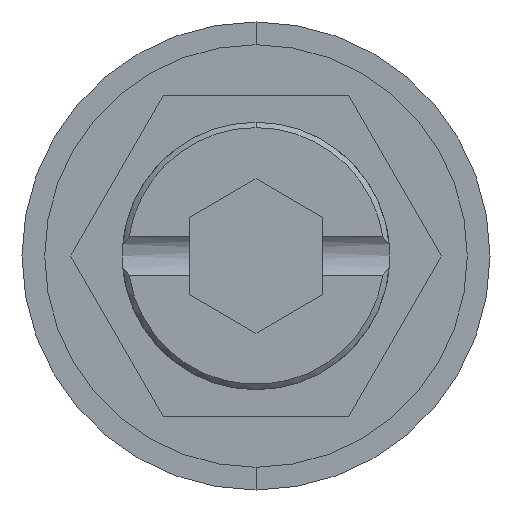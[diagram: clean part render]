
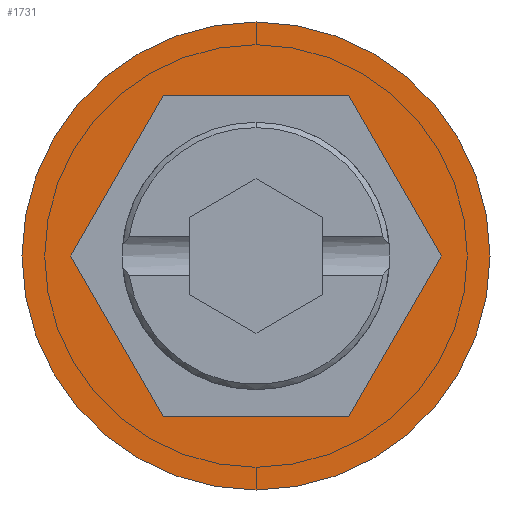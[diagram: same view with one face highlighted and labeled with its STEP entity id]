
A CAD part, front view. The second image highlights one B-rep face of the part: STEP entity #1731.
In plain terms, the highlighted planar face has unit normal (0, -1, 0).
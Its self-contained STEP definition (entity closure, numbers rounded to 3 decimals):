
#29 = ORIENTED_EDGE ( 'NONE', *, *, #1555, .F. ) ;
#47 = EDGE_LOOP ( 'NONE', ( #5527, #970, #29, #329, #3861, #1019 ) ) ;
#83 = LINE ( 'NONE', #2739, #2404 ) ;
#161 = LINE ( 'NONE', #2700, #3702 ) ;
#289 = DIRECTION ( 'NONE',  ( -1., 0., 0. ) ) ;
#293 = VERTEX_POINT ( 'NONE', #4318 ) ;
#329 = ORIENTED_EDGE ( 'NONE', *, *, #4709, .F. ) ;
#403 = VERTEX_POINT ( 'NONE', #3889 ) ;
#406 = CARTESIAN_POINT ( 'NONE',  ( -3.464, 0., -6. ) ) ;
#438 = DIRECTION ( 'NONE',  ( -0.5, 0., -0.866 ) ) ;
#472 = VECTOR ( 'NONE', #3321, 1000. ) ;
#679 = EDGE_LOOP ( 'NONE', ( #4627, #5413 ) ) ;
#685 = EDGE_CURVE ( 'NONE', #3719, #3999, #4128, .T. ) ;
#750 = CARTESIAN_POINT ( 'NONE',  ( 3.464, 0., 6. ) ) ;
#781 = CARTESIAN_POINT ( 'NONE',  ( -3.464, 0., 6. ) ) ;
#970 = ORIENTED_EDGE ( 'NONE', *, *, #5496, .F. ) ;
#1012 = VERTEX_POINT ( 'NONE', #2396 ) ;
#1019 = ORIENTED_EDGE ( 'NONE', *, *, #5419, .F. ) ;
#1081 = CARTESIAN_POINT ( 'NONE',  ( 0., 0., 0. ) ) ;
#1457 = LINE ( 'NONE', #5381, #3901 ) ;
#1555 = EDGE_CURVE ( 'NONE', #2123, #403, #3488, .T. ) ;
#1567 = DIRECTION ( 'NONE',  ( 0., 0., -1. ) ) ;
#1731 = ADVANCED_FACE ( 'NONE', ( #2414, #5277 ), #3617, .T. ) ;
#1816 = CARTESIAN_POINT ( 'NONE',  ( 0., 0., 0. ) ) ;
#1839 = CIRCLE ( 'NONE', #4065, 8.75 ) ;
#1928 = CARTESIAN_POINT ( 'NONE',  ( 0., 0., -8.75 ) ) ;
#1978 = EDGE_CURVE ( 'NONE', #1012, #2765, #161, .T. ) ;
#2123 = VERTEX_POINT ( 'NONE', #2162 ) ;
#2162 = CARTESIAN_POINT ( 'NONE',  ( -3.464, 0., 6. ) ) ;
#2288 = DIRECTION ( 'NONE',  ( 0., 0., -1. ) ) ;
#2396 = CARTESIAN_POINT ( 'NONE',  ( 6.928, 0., 0. ) ) ;
#2404 = VECTOR ( 'NONE', #3192, 1000. ) ;
#2414 = FACE_BOUND ( 'NONE', #47, .T. ) ;
#2529 = DIRECTION ( 'NONE',  ( -0.5, 0., 0.866 ) ) ;
#2700 = CARTESIAN_POINT ( 'NONE',  ( 6.928, 0., 0. ) ) ;
#2739 = CARTESIAN_POINT ( 'NONE',  ( -6.928, 0., 0. ) ) ;
#2765 = VERTEX_POINT ( 'NONE', #3391 ) ;
#3046 = AXIS2_PLACEMENT_3D ( 'NONE', #1081, #4308, #1567 ) ;
#3121 = DIRECTION ( 'NONE',  ( 0., 0., -1. ) ) ;
#3192 = DIRECTION ( 'NONE',  ( 0.5, 0., -0.866 ) ) ;
#3293 = CARTESIAN_POINT ( 'NONE',  ( 3.464, 0., -6. ) ) ;
#3300 = CARTESIAN_POINT ( 'NONE',  ( -3.464, 0., -6. ) ) ;
#3321 = DIRECTION ( 'NONE',  ( 1., 0., 0. ) ) ;
#3340 = LINE ( 'NONE', #750, #4395 ) ;
#3391 = CARTESIAN_POINT ( 'NONE',  ( 3.464, 0., 6. ) ) ;
#3488 = LINE ( 'NONE', #781, #4544 ) ;
#3492 = DIRECTION ( 'NONE',  ( 0., -1., 0. ) ) ;
#3547 = CARTESIAN_POINT ( 'NONE',  ( 0., 0., 0. ) ) ;
#3617 = PLANE ( 'NONE',  #3745 ) ;
#3654 = EDGE_CURVE ( 'NONE', #293, #4120, #1839, .T. ) ;
#3702 = VECTOR ( 'NONE', #2529, 1000. ) ;
#3719 = VERTEX_POINT ( 'NONE', #406 ) ;
#3745 = AXIS2_PLACEMENT_3D ( 'NONE', #3547, #3492, #3121 ) ;
#3861 = ORIENTED_EDGE ( 'NONE', *, *, #1978, .F. ) ;
#3889 = CARTESIAN_POINT ( 'NONE',  ( -6.928, 0., 0. ) ) ;
#3901 = VECTOR ( 'NONE', #4505, 1000. ) ;
#3999 = VERTEX_POINT ( 'NONE', #3293 ) ;
#4065 = AXIS2_PLACEMENT_3D ( 'NONE', #1816, #4972, #2288 ) ;
#4120 = VERTEX_POINT ( 'NONE', #1928 ) ;
#4128 = LINE ( 'NONE', #3300, #472 ) ;
#4272 = EDGE_CURVE ( 'NONE', #4120, #293, #5358, .T. ) ;
#4308 = DIRECTION ( 'NONE',  ( 0., -1., 0. ) ) ;
#4318 = CARTESIAN_POINT ( 'NONE',  ( 0., 0., 8.75 ) ) ;
#4395 = VECTOR ( 'NONE', #289, 1000. ) ;
#4505 = DIRECTION ( 'NONE',  ( 0.5, 0., 0.866 ) ) ;
#4544 = VECTOR ( 'NONE', #438, 1000. ) ;
#4627 = ORIENTED_EDGE ( 'NONE', *, *, #4272, .T. ) ;
#4709 = EDGE_CURVE ( 'NONE', #2765, #2123, #3340, .T. ) ;
#4972 = DIRECTION ( 'NONE',  ( 0., -1., 0. ) ) ;
#5277 = FACE_OUTER_BOUND ( 'NONE', #679, .T. ) ;
#5358 = CIRCLE ( 'NONE', #3046, 8.75 ) ;
#5381 = CARTESIAN_POINT ( 'NONE',  ( 3.464, 0., -6. ) ) ;
#5413 = ORIENTED_EDGE ( 'NONE', *, *, #3654, .T. ) ;
#5419 = EDGE_CURVE ( 'NONE', #3999, #1012, #1457, .T. ) ;
#5496 = EDGE_CURVE ( 'NONE', #403, #3719, #83, .T. ) ;
#5527 = ORIENTED_EDGE ( 'NONE', *, *, #685, .F. ) ;
